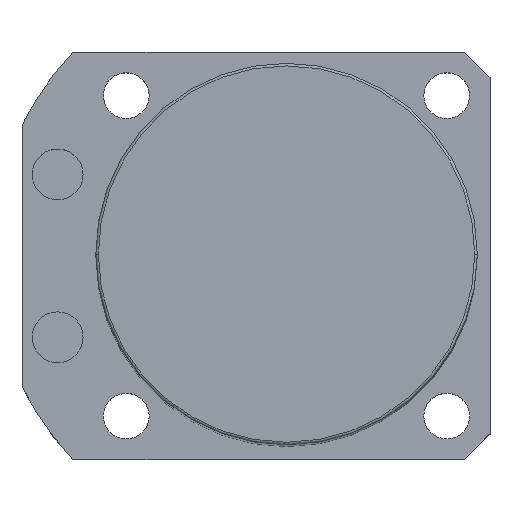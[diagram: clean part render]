
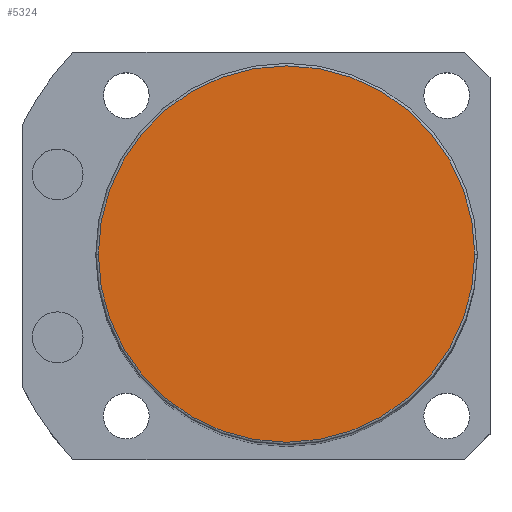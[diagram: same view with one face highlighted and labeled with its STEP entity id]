
A CAD part, top view. The second image highlights one B-rep face of the part: STEP entity #5324.
In plain terms, the highlighted planar face has unit normal (0, 0, 1).
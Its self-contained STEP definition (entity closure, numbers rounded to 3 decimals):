
#208 = AXIS2_PLACEMENT_3D ( 'NONE', #934, #1951, #2006 ) ;
#224 = AXIS2_PLACEMENT_3D ( 'NONE', #285, #3839, #4338 ) ;
#285 = CARTESIAN_POINT ( 'NONE',  ( 0., 0., 220.5 ) ) ;
#450 = DIRECTION ( 'NONE',  ( 1., 0., 0. ) ) ;
#934 = CARTESIAN_POINT ( 'NONE',  ( 0., 0., 220.5 ) ) ;
#1541 = FACE_OUTER_BOUND ( 'NONE', #2298, .T. ) ;
#1951 = DIRECTION ( 'NONE',  ( 0., 0., 1. ) ) ;
#2006 = DIRECTION ( 'NONE',  ( 1., 0., 0. ) ) ;
#2298 = EDGE_LOOP ( 'NONE', ( #6498, #3927 ) ) ;
#2874 = EDGE_CURVE ( 'NONE', #3496, #3697, #4141, .T. ) ;
#3200 = AXIS2_PLACEMENT_3D ( 'NONE', #3497, #4526, #450 ) ;
#3496 = VERTEX_POINT ( 'NONE', #4484 ) ;
#3497 = CARTESIAN_POINT ( 'NONE',  ( 0., 0., 220.5 ) ) ;
#3518 = PLANE ( 'NONE',  #208 ) ;
#3697 = VERTEX_POINT ( 'NONE', #4205 ) ;
#3839 = DIRECTION ( 'NONE',  ( 0., 0., 1. ) ) ;
#3927 = ORIENTED_EDGE ( 'NONE', *, *, #5631, .T. ) ;
#4141 = CIRCLE ( 'NONE', #3200, 37. ) ;
#4205 = CARTESIAN_POINT ( 'NONE',  ( -37., 0., 220.5 ) ) ;
#4338 = DIRECTION ( 'NONE',  ( 1., 0., 0. ) ) ;
#4484 = CARTESIAN_POINT ( 'NONE',  ( 37., 0., 220.5 ) ) ;
#4526 = DIRECTION ( 'NONE',  ( 0., 0., 1. ) ) ;
#5324 = ADVANCED_FACE ( 'NONE', ( #1541 ), #3518, .T. ) ;
#5628 = CIRCLE ( 'NONE', #224, 37. ) ;
#5631 = EDGE_CURVE ( 'NONE', #3697, #3496, #5628, .T. ) ;
#6498 = ORIENTED_EDGE ( 'NONE', *, *, #2874, .T. ) ;
